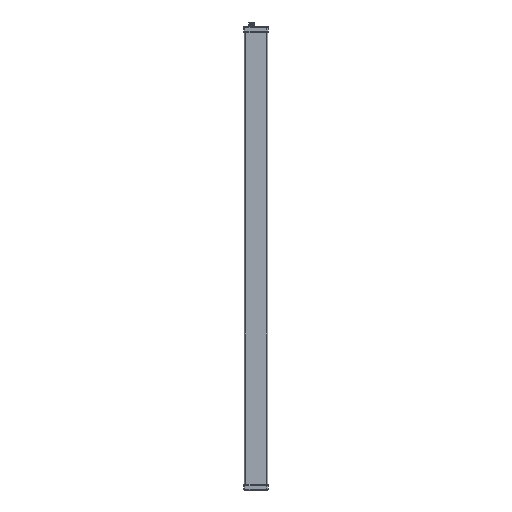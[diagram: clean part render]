
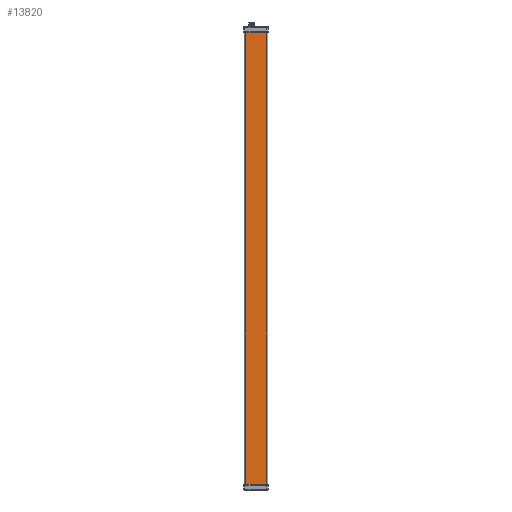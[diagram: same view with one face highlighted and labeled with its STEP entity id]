
A CAD part, left-side view. The second image highlights one B-rep face of the part: STEP entity #13820.
In plain terms, the highlighted planar face has unit normal (-1, 0, 0).
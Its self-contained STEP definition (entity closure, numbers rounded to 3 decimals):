
#13039 = VERTEX_POINT ( 'NONE', #26841 ) ;
#13042 = EDGE_CURVE ( 'NONE', #13043, #13039, #26840, .T. ) ;
#13043 = VERTEX_POINT ( 'NONE', #27342 ) ;
#13680 = ORIENTED_EDGE ( 'NONE', *, *, #13682, .F. ) ;
#13682 = EDGE_CURVE ( 'NONE', #13043, #13684, #21660, .T. ) ;
#13684 = VERTEX_POINT ( 'NONE', #21784 ) ;
#13686 = ORIENTED_EDGE ( 'NONE', *, *, #13042, .T. ) ;
#13687 = ORIENTED_EDGE ( 'NONE', *, *, #13689, .F. ) ;
#13689 = EDGE_CURVE ( 'NONE', #13691, #13039, #21783, .T. ) ;
#13691 = VERTEX_POINT ( 'NONE', #21774 ) ;
#13711 = ORIENTED_EDGE ( 'NONE', *, *, #13713, .T. ) ;
#13713 = EDGE_CURVE ( 'NONE', #13691, #13684, #23204, .T. ) ;
#13820 = ADVANCED_FACE ( 'NONE', ( #24651 ), #24637, .T. ) ;
#13822 = EDGE_LOOP ( 'NONE', ( #13680, #13686, #13687, #13711 ) ) ;
#21660 = LINE ( 'NONE', #21661, #21786 ) ;
#21661 = CARTESIAN_POINT ( 'NONE',  ( -44.402, -44.986, 429. ) ) ;
#21774 = CARTESIAN_POINT ( 'NONE',  ( -44.402, -12.274, -429. ) ) ;
#21780 = DIRECTION ( 'NONE',  ( 0., 1., 0. ) ) ;
#21781 = VECTOR ( 'NONE', #21780, 1000. ) ;
#21782 = CARTESIAN_POINT ( 'NONE',  ( -44.402, -44.986, -429. ) ) ;
#21783 = LINE ( 'NONE', #21782, #21781 ) ;
#21784 = CARTESIAN_POINT ( 'NONE',  ( -44.402, -12.274, 429. ) ) ;
#21785 = DIRECTION ( 'NONE',  ( 0., -1., 0. ) ) ;
#21786 = VECTOR ( 'NONE', #21785, 1000. ) ;
#23201 = DIRECTION ( 'NONE',  ( 0., 0., 1. ) ) ;
#23202 = VECTOR ( 'NONE', #23201, 1000. ) ;
#23203 = CARTESIAN_POINT ( 'NONE',  ( -44.402, -12.274, 431. ) ) ;
#23204 = LINE ( 'NONE', #23203, #23202 ) ;
#24629 = DIRECTION ( 'NONE',  ( 0., -1., 0. ) ) ;
#24630 = DIRECTION ( 'NONE',  ( -1., 0., 0. ) ) ;
#24631 = CARTESIAN_POINT ( 'NONE',  ( -44.402, -44.986, 431. ) ) ;
#24632 = AXIS2_PLACEMENT_3D ( 'NONE', #24631, #24630, #24629 ) ;
#24637 = PLANE ( 'NONE',  #24632 ) ;
#24651 = FACE_OUTER_BOUND ( 'NONE', #13822, .T. ) ;
#26824 = DIRECTION ( 'NONE',  ( 0., 0., -1. ) ) ;
#26825 = VECTOR ( 'NONE', #26824, 1000. ) ;
#26826 = CARTESIAN_POINT ( 'NONE',  ( -44.402, 28.726, 431. ) ) ;
#26840 = LINE ( 'NONE', #26826, #26825 ) ;
#26841 = CARTESIAN_POINT ( 'NONE',  ( -44.402, 28.726, -429. ) ) ;
#27342 = CARTESIAN_POINT ( 'NONE',  ( -44.402, 28.726, 429. ) ) ;
